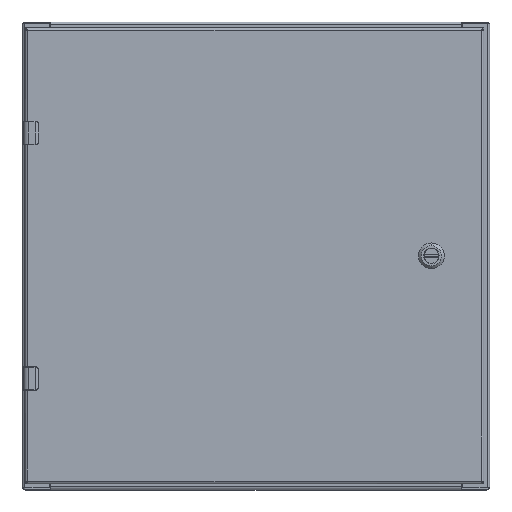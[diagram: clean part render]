
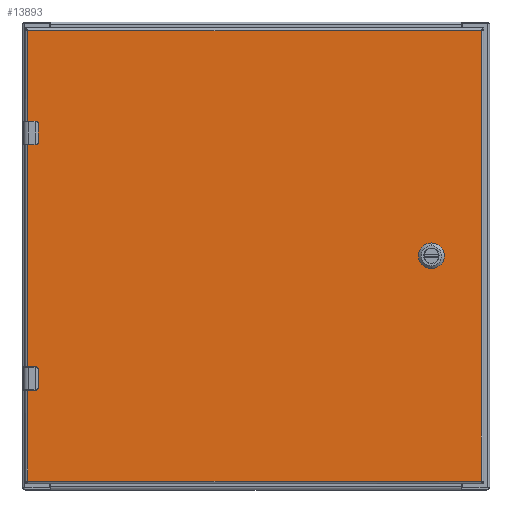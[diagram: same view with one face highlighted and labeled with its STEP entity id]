
A CAD part, top view. The second image highlights one B-rep face of the part: STEP entity #13893.
In plain terms, the highlighted planar face has unit normal (0, 0, 1).
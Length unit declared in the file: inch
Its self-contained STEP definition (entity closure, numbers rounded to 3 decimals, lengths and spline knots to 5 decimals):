
#10574=CARTESIAN_POINT('',(7.5625,0.,0.));
#10575=DIRECTION('',(0.,0.,1.));
#10576=DIRECTION('',(-0.448,0.894,0.));
#10577=AXIS2_PLACEMENT_3D('',#10574,#10575,#10576);
#10582=DIRECTION('',(0.,-1.,0.));
#10583=VECTOR('',#10582,0.39715);
#10584=CARTESIAN_POINT('',(7.1665,0.19858,0.));
#10585=LINE('',#10584,#10583);
#10589=CARTESIAN_POINT('',(7.5625,0.,0.));
#10590=DIRECTION('',(0.,0.,1.));
#10591=DIRECTION('',(-0.894,-0.448,0.));
#10592=AXIS2_PLACEMENT_3D('',#10589,#10590,#10591);
#10597=DIRECTION('',(1.,0.,0.));
#10598=VECTOR('',#10597,0.39715);
#10599=CARTESIAN_POINT('',(7.36392,-0.396,0.));
#10600=LINE('',#10599,#10598);
#10604=CARTESIAN_POINT('',(7.5625,0.,0.));
#10605=DIRECTION('',(0.,0.,1.));
#10606=DIRECTION('',(0.448,-0.894,0.));
#10607=AXIS2_PLACEMENT_3D('',#10604,#10605,#10606);
#10612=DIRECTION('',(0.,1.,0.));
#10613=VECTOR('',#10612,0.39715);
#10614=CARTESIAN_POINT('',(7.9585,-0.19858,0.));
#10615=LINE('',#10614,#10613);
#10619=CARTESIAN_POINT('',(7.5625,0.,0.));
#10620=DIRECTION('',(0.,0.,1.));
#10621=DIRECTION('',(0.894,0.448,0.));
#10622=AXIS2_PLACEMENT_3D('',#10619,#10620,#10621);
#10627=DIRECTION('',(-1.,0.,0.));
#10628=VECTOR('',#10627,0.39715);
#10629=CARTESIAN_POINT('',(7.76108,0.396,0.));
#10630=LINE('',#10629,#10628);
#10634=DIRECTION('',(1.,0.,0.));
#10635=VECTOR('',#10634,0.3629);
#10636=CARTESIAN_POINT('',(-9.6955,-5.595,0.));
#10637=LINE('',#10636,#10635);
#10641=DIRECTION('',(0.,1.,0.));
#10642=VECTOR('',#10641,0.63);
#10643=CARTESIAN_POINT('',(-9.3026,-5.565,0.));
#10644=LINE('',#10643,#10642);
#10648=DIRECTION('',(1.,0.,0.));
#10649=VECTOR('',#10648,0.3629);
#10650=CARTESIAN_POINT('',(-9.6955,-4.905,0.));
#10651=LINE('',#10650,#10649);
#10655=DIRECTION('',(1.,0.,0.));
#10656=VECTOR('',#10655,0.3629);
#10657=CARTESIAN_POINT('',(-9.6955,4.905,0.));
#10658=LINE('',#10657,#10656);
#10662=DIRECTION('',(0.,1.,0.));
#10663=VECTOR('',#10662,0.63);
#10664=CARTESIAN_POINT('',(-9.3026,4.935,0.));
#10665=LINE('',#10664,#10663);
#10669=DIRECTION('',(1.,0.,0.));
#10670=VECTOR('',#10669,0.3629);
#10671=CARTESIAN_POINT('',(-9.6955,5.595,0.));
#10672=LINE('',#10671,#10670);
#11193=DIRECTION('',(0.,-1.,0.));
#11194=VECTOR('',#11193,19.266);
#11195=CARTESIAN_POINT('',(9.6955,9.633,0.));
#11196=LINE('',#11195,#11194);
#11269=DIRECTION('',(1.,0.,0.));
#11270=VECTOR('',#11269,19.391);
#11271=CARTESIAN_POINT('',(-9.6955,9.633,0.));
#11272=LINE('',#11271,#11270);
#11403=DIRECTION('',(0.,1.,0.));
#11404=VECTOR('',#11403,9.81);
#11405=CARTESIAN_POINT('',(-9.6955,-4.905,0.));
#11406=LINE('',#11405,#11404);
#11410=CARTESIAN_POINT('',(-9.6955,9.633,0.));
#11451=DIRECTION('',(0.,1.,0.));
#11452=VECTOR('',#11451,4.038);
#11453=CARTESIAN_POINT('',(-9.6955,5.595,0.));
#11454=LINE('',#11453,#11452);
#11529=DIRECTION('',(0.,1.,0.));
#11530=VECTOR('',#11529,4.038);
#11531=CARTESIAN_POINT('',(-9.6955,-9.633,0.));
#11532=LINE('',#11531,#11530);
#11550=CARTESIAN_POINT('',(-9.3326,-4.935,0.));
#11551=DIRECTION('',(0.,0.,-1.));
#11552=DIRECTION('',(0.,1.,0.));
#11553=AXIS2_PLACEMENT_3D('',#11550,#11551,#11552);
#11580=CARTESIAN_POINT('',(-9.3326,-5.565,0.));
#11581=DIRECTION('',(0.,0.,-1.));
#11582=DIRECTION('',(1.,0.,0.));
#11583=AXIS2_PLACEMENT_3D('',#11580,#11581,#11582);
#11922=DIRECTION('',(-1.,0.,0.));
#11923=VECTOR('',#11922,19.391);
#11924=CARTESIAN_POINT('',(9.6955,-9.633,0.));
#11925=LINE('',#11924,#11923);
#12277=CARTESIAN_POINT('',(-9.3326,5.565,0.));
#12278=DIRECTION('',(0.,0.,-1.));
#12279=DIRECTION('',(0.,1.,0.));
#12280=AXIS2_PLACEMENT_3D('',#12277,#12278,#12279);
#12307=CARTESIAN_POINT('',(-9.3326,4.935,0.));
#12308=DIRECTION('',(0.,0.,-1.));
#12309=DIRECTION('',(1.,0.,0.));
#12310=AXIS2_PLACEMENT_3D('',#12307,#12308,#12309);
#13430=CARTESIAN_POINT('',(9.6955,9.633,0.));
#13431=CARTESIAN_POINT('',(9.6955,-9.633,0.));
#13432=VERTEX_POINT('',#13430);
#13433=VERTEX_POINT('',#13431);
#13518=CARTESIAN_POINT('',(7.36392,0.396,0.));
#13519=CARTESIAN_POINT('',(7.1665,0.19858,0.));
#13520=VERTEX_POINT('',#13518);
#13521=VERTEX_POINT('',#13519);
#13522=CARTESIAN_POINT('',(7.1665,-0.19858,0.));
#13523=VERTEX_POINT('',#13522);
#13524=CARTESIAN_POINT('',(7.36392,-0.396,0.));
#13525=VERTEX_POINT('',#13524);
#13526=CARTESIAN_POINT('',(7.76108,-0.396,0.));
#13527=VERTEX_POINT('',#13526);
#13528=CARTESIAN_POINT('',(7.9585,-0.19858,0.));
#13529=VERTEX_POINT('',#13528);
#13530=CARTESIAN_POINT('',(7.9585,0.19858,0.));
#13531=VERTEX_POINT('',#13530);
#13532=CARTESIAN_POINT('',(7.76108,0.396,0.));
#13533=VERTEX_POINT('',#13532);
#13580=VERTEX_POINT('',#11410);
#13585=CARTESIAN_POINT('',(-9.6955,-9.633,0.));
#13587=VERTEX_POINT('',#13585);
#13676=CARTESIAN_POINT('',(-9.6955,5.595,0.));
#13678=VERTEX_POINT('',#13676);
#13680=CARTESIAN_POINT('',(-9.6955,4.905,0.));
#13682=VERTEX_POINT('',#13680);
#13688=CARTESIAN_POINT('',(-9.3326,5.595,0.));
#13689=VERTEX_POINT('',#13688);
#13690=CARTESIAN_POINT('',(-9.3026,4.935,0.));
#13691=CARTESIAN_POINT('',(-9.3026,5.565,0.));
#13692=VERTEX_POINT('',#13690);
#13693=VERTEX_POINT('',#13691);
#13694=CARTESIAN_POINT('',(-9.3326,4.905,0.));
#13695=VERTEX_POINT('',#13694);
#13724=CARTESIAN_POINT('',(-9.6955,-4.905,0.));
#13726=VERTEX_POINT('',#13724);
#13728=CARTESIAN_POINT('',(-9.6955,-5.595,0.));
#13730=VERTEX_POINT('',#13728);
#13740=CARTESIAN_POINT('',(-9.3326,-4.905,0.));
#13742=VERTEX_POINT('',#13740);
#13744=CARTESIAN_POINT('',(-9.3026,-4.935,0.));
#13746=VERTEX_POINT('',#13744);
#13748=CARTESIAN_POINT('',(-9.3026,-5.565,0.));
#13750=VERTEX_POINT('',#13748);
#13752=CARTESIAN_POINT('',(-9.3326,-5.595,0.));
#13754=VERTEX_POINT('',#13752);
#13836=CARTESIAN_POINT('',(0.,0.,0.));
#13837=DIRECTION('',(0.,0.,-1.));
#13838=DIRECTION('',(1.,0.,0.));
#13839=AXIS2_PLACEMENT_3D('',#13836,#13837,#13838);
#13840=PLANE('',#13839);
#13842=ORIENTED_EDGE('',*,*,#13841,.T.);
#13844=ORIENTED_EDGE('',*,*,#13843,.T.);
#13846=ORIENTED_EDGE('',*,*,#13845,.T.);
#13848=ORIENTED_EDGE('',*,*,#13847,.F.);
#13850=ORIENTED_EDGE('',*,*,#13849,.T.);
#13852=ORIENTED_EDGE('',*,*,#13851,.F.);
#13854=ORIENTED_EDGE('',*,*,#13853,.F.);
#13856=ORIENTED_EDGE('',*,*,#13855,.T.);
#13858=ORIENTED_EDGE('',*,*,#13857,.T.);
#13860=ORIENTED_EDGE('',*,*,#13859,.F.);
#13862=ORIENTED_EDGE('',*,*,#13861,.T.);
#13864=ORIENTED_EDGE('',*,*,#13863,.F.);
#13866=ORIENTED_EDGE('',*,*,#13865,.F.);
#13868=ORIENTED_EDGE('',*,*,#13867,.T.);
#13870=ORIENTED_EDGE('',*,*,#13869,.T.);
#13872=ORIENTED_EDGE('',*,*,#13871,.T.);
#13873=EDGE_LOOP('',(#13842,#13844,#13846,#13848,#13850,#13852,#13854,#13856,
#13858,#13860,#13862,#13864,#13866,#13868,#13870,#13872));
#13874=FACE_OUTER_BOUND('',#13873,.F.);
#13876=ORIENTED_EDGE('',*,*,#13875,.T.);
#13878=ORIENTED_EDGE('',*,*,#13877,.T.);
#13880=ORIENTED_EDGE('',*,*,#13879,.T.);
#13882=ORIENTED_EDGE('',*,*,#13881,.T.);
#13884=ORIENTED_EDGE('',*,*,#13883,.T.);
#13886=ORIENTED_EDGE('',*,*,#13885,.T.);
#13888=ORIENTED_EDGE('',*,*,#13887,.T.);
#13890=ORIENTED_EDGE('',*,*,#13889,.T.);
#13891=EDGE_LOOP('',(#13876,#13878,#13880,#13882,#13884,#13886,#13888,#13890));
#13892=FACE_BOUND('',#13891,.F.);
#10578=CIRCLE('',#10577,0.443);
#10593=CIRCLE('',#10592,0.443);
#10608=CIRCLE('',#10607,0.443);
#10623=CIRCLE('',#10622,0.443);
#11554=CIRCLE('',#11553,0.03);
#11584=CIRCLE('',#11583,0.03);
#12281=CIRCLE('',#12280,0.03);
#12311=CIRCLE('',#12310,0.03);
#13841=EDGE_CURVE('',#13433,#13587,#11925,.T.);
#13843=EDGE_CURVE('',#13587,#13730,#11532,.T.);
#13845=EDGE_CURVE('',#13730,#13754,#10637,.T.);
#13847=EDGE_CURVE('',#13750,#13754,#11584,.T.);
#13849=EDGE_CURVE('',#13750,#13746,#10644,.T.);
#13851=EDGE_CURVE('',#13742,#13746,#11554,.T.);
#13853=EDGE_CURVE('',#13726,#13742,#10651,.T.);
#13855=EDGE_CURVE('',#13726,#13682,#11406,.T.);
#13857=EDGE_CURVE('',#13682,#13695,#10658,.T.);
#13859=EDGE_CURVE('',#13692,#13695,#12311,.T.);
#13861=EDGE_CURVE('',#13692,#13693,#10665,.T.);
#13863=EDGE_CURVE('',#13689,#13693,#12281,.T.);
#13865=EDGE_CURVE('',#13678,#13689,#10672,.T.);
#13867=EDGE_CURVE('',#13678,#13580,#11454,.T.);
#13869=EDGE_CURVE('',#13580,#13432,#11272,.T.);
#13871=EDGE_CURVE('',#13432,#13433,#11196,.T.);
#13875=EDGE_CURVE('',#13520,#13521,#10578,.T.);
#13877=EDGE_CURVE('',#13521,#13523,#10585,.T.);
#13879=EDGE_CURVE('',#13523,#13525,#10593,.T.);
#13881=EDGE_CURVE('',#13525,#13527,#10600,.T.);
#13883=EDGE_CURVE('',#13527,#13529,#10608,.T.);
#13885=EDGE_CURVE('',#13529,#13531,#10615,.T.);
#13887=EDGE_CURVE('',#13531,#13533,#10623,.T.);
#13889=EDGE_CURVE('',#13533,#13520,#10630,.T.);
#13893=ADVANCED_FACE('',(#13874,#13892),#13840,.F.);
